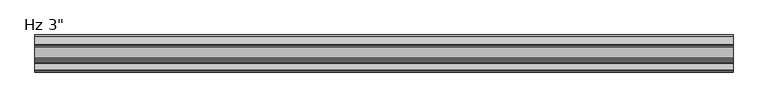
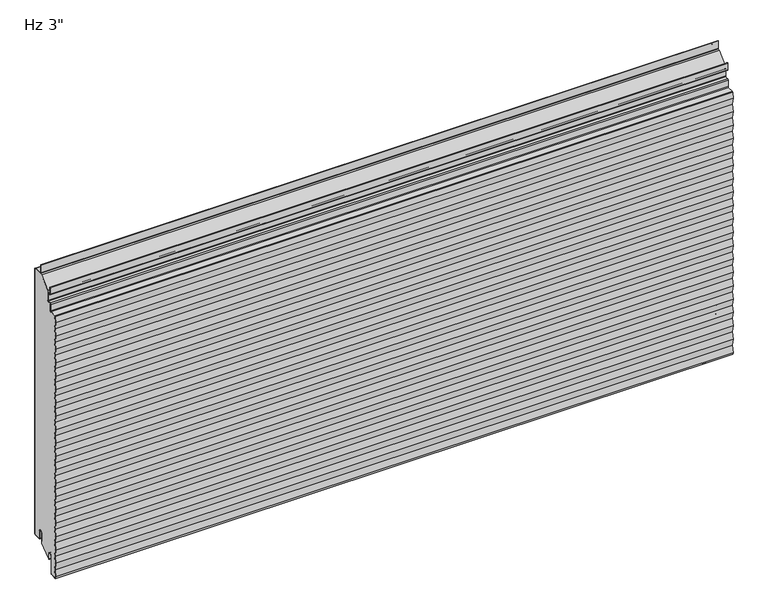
"""IFC4 building model written with IfcOpenShell, lengths in millimetres: plate geometry."""

from ifc_helpers import new_model, si_unit, point, frame, frame_2d, origin, place, context, project, spatial, polyline, circle_curve, ellipse_curve, trimmed, segment, composite_curve, outline, extrude, source, transform, mapped, element, save
from ifc_brep_helpers import plane_surface, cylinder_surface, revolved_surface, extruded_surface, advanced_brep


def plate_971f1716(model_context):
    return source(origin(), model_context, "Body", "SolidModel", [
        extrude(outline(composite_curve([segment(trimmed(circle_curve(frame_2d((-21.43125, 19.05)), 4.96875), [point((-16.4625, 19.05))], [point((-26.4, 19.05))], True, "CARTESIAN"), True, "CONTINUOUS"), segment(polyline([(-26.4, 19.05), (-26.4, -3.1323422), (-49.2157227, -23.01875), (-50.8, -23.01875), (-50.8, -13.5080174), (-51.59375, -13.5080174), (-51.3875, -11.9205174)]), True, "CONTINUOUS"), segment(trimmed(circle_curve(frame_2d((-56.35625, -11.9205174)), 4.96875), [point((-51.3875, -11.9205174))], [point((-61.325, -11.9205174))], True, "CARTESIAN"), True, "CONTINUOUS"), segment(polyline([(-61.325, -11.9205174), (-61.325, -50.1038221)]), True, "CONTINUOUS"), segment(trimmed(circle_curve(frame_2d((-62.70625, -50.1038221)), 1.38125), [point((-61.325, -50.1038221))], [point((-62.633961, -51.4831791))], False, "CARTESIAN"), True, "CONTINUOUS"), segment(polyline([(-62.633961, -51.4831791), (-75.8062471, -52.1735094), (-76.3378194, -48.8511825), (-73.8994194, -33.6111825), (-76.3378194, -18.3711825), (-73.8994194, -3.1311825), (-76.3378194, 12.1088175), (-73.8994194, 27.3488175), (-76.3378194, 42.5888175), (-73.8994194, 57.8288175), (-76.3378194, 73.0688175), (-73.8994194, 88.3088175), (-76.3378194, 103.5488175), (-73.8994194, 118.7888175), (-76.3378194, 134.0288175), (-73.8994194, 149.2688175), (-76.3378194, 164.5088175), (-73.8994194, 179.7488175), (-76.3378194, 194.9888175), (-73.8994194, 210.2288175), (-76.3378194, 225.4688175), (-73.8994194, 240.7088175), (-76.3378194, 255.9488175), (-73.8994194, 271.1888175), (-76.3378194, 286.4288175), (-73.8994194, 301.6688175), (-76.3378194, 316.9088175), (-73.8994194, 332.1488175), (-76.3378194, 347.3888175), (-73.8994194, 362.6288175), (-76.3378194, 377.8688175), (-73.8994194, 393.1088175), (-76.3378194, 408.3488175), (-73.8994194, 423.5888175), (-76.3378194, 438.8288175), (-73.8994194, 454.0688175), (-76.3378194, 469.3088175), (-73.8994194, 484.5488175), (-76.3378194, 499.7888175), (-73.8994194, 515.0288175), (-76.3054086, 530.06625), (-74.2673048, 542.8043985), (-60.1895807, 543.5421807)]), True, "CONTINUOUS"), segment(trimmed(circle_curve(frame_2d((-60.325, 546.1261347)), 2.5875), [point((-60.1895807, 543.5421807))], [point((-57.7375, 546.1261347))], True, "CARTESIAN"), True, "CONTINUOUS"), segment(polyline([(-57.7375, 546.1261347), (-57.7375, 560.2824411)]), True, "CONTINUOUS"), segment(trimmed(circle_curve(frame_2d((-56.35625, 560.2824411)), 1.38125), [point((-57.7375, 560.2824411))], [point((-56.428539, 561.6617981))], False, "CARTESIAN"), True, "CONTINUOUS"), segment(polyline([(-56.428539, 561.6617981), (-50.6645807, 561.9638744)]), True, "CONTINUOUS"), segment(trimmed(circle_curve(frame_2d((-50.8, 564.5478283)), 2.5875), [point((-50.6645807, 561.9638744))], [point((-48.2125, 564.5478283))], True, "CARTESIAN"), True, "CONTINUOUS"), segment(polyline([(-48.2125, 564.5478283), (-48.2125, 586.9892934), (-24.9057308, 607.80625), (-2.38125, 607.80625)]), True, "CONTINUOUS"), segment(trimmed(circle_curve(frame_2d((-2.38125, 606.425)), 1.38125), [point((-2.38125, 607.80625))], [point((-1.0, 606.425))], False, "CARTESIAN"), True, "CONTINUOUS"), segment(polyline([(-1.0, 606.425), (-1.0, 3.175)]), True, "CONTINUOUS"), segment(trimmed(circle_curve(frame_2d((-2.38125, 3.175)), 1.38125), [point((-1.0, 3.175))], [point((-2.38125, 1.79375))], False, "CARTESIAN"), True, "CONTINUOUS"), segment(polyline([(-2.38125, 1.79375), (-15.08125, 1.79375)]), True, "CONTINUOUS"), segment(trimmed(circle_curve(frame_2d((-15.08125, 3.175)), 1.38125), [point((-15.08125, 1.79375))], [point((-16.4625, 3.175))], False, "CARTESIAN"), True, "CONTINUOUS"), segment(polyline([(-16.4625, 3.175), (-16.4625, 19.05)]), True, "CONTINUOUS")], self_intersect=False)), frame((-730.0, 0.0, 0.0), z_axis=(1.0, 0.0, 0.0), x_axis=(0.0, 1.0, 0.0)), (0.0, 0.0, 1.0), 1460.0),
        extrude(outline(composite_curve([segment(polyline([(-25.4, 0.79375), (-26.4, 0.79375), (-26.4, 19.05)]), True, "CONTINUOUS"), segment(trimmed(circle_curve(frame_2d((-21.43125, 19.05)), 4.96875), [point((-26.4, 19.05))], [point((-16.4625, 19.05))], False, "CARTESIAN"), True, "CONTINUOUS"), segment(polyline([(-16.4625, 19.05), (-16.4625, 3.175)]), True, "CONTINUOUS"), segment(trimmed(circle_curve(frame_2d((-15.08125, 3.175)), 1.38125), [point((-16.4625, 3.175))], [point((-15.08125, 1.79375))], True, "CARTESIAN"), True, "CONTINUOUS"), segment(polyline([(-15.08125, 1.79375), (-2.38125, 1.79375)]), True, "CONTINUOUS"), segment(trimmed(circle_curve(frame_2d((-2.38125, 3.175)), 1.38125), [point((-2.38125, 1.79375))], [point((-1.0, 3.175))], True, "CARTESIAN"), True, "CONTINUOUS"), segment(polyline([(-1.0, 3.175), (-1.0, 606.425)]), True, "CONTINUOUS"), segment(trimmed(circle_curve(frame_2d((-2.38125, 606.425)), 1.38125), [point((-1.0, 606.425))], [point((-2.38125, 607.80625))], True, "CARTESIAN"), True, "CONTINUOUS"), segment(polyline([(-2.38125, 607.80625), (-19.446875, 607.80625)]), True, "CONTINUOUS"), segment(trimmed(circle_curve(frame_2d((-19.446875, 610.39375)), 2.5875), [point((-19.446875, 607.80625))], [point((-22.034375, 610.39375))], False, "CARTESIAN"), True, "CONTINUOUS"), segment(polyline([(-22.034375, 610.39375), (-22.034375, 627.85625), (-21.034375, 627.85625), (-21.034375, 610.39375)]), True, "CONTINUOUS"), segment(trimmed(circle_curve(frame_2d((-19.446875, 610.39375)), 1.5875), [point((-21.034375, 610.39375))], [point((-19.446875, 608.80625))], True, "CARTESIAN"), True, "CONTINUOUS"), segment(polyline([(-19.446875, 608.80625), (-2.38125, 608.80625)]), True, "CONTINUOUS"), segment(trimmed(circle_curve(frame_2d((-2.38125, 606.425)), 2.38125), [point((-2.38125, 608.80625))], [point((0.0, 606.425))], False, "CARTESIAN"), True, "CONTINUOUS"), segment(polyline([(0.0, 606.425), (0.0, 3.175)]), True, "CONTINUOUS"), segment(trimmed(circle_curve(frame_2d((-2.38125, 3.175)), 2.38125), [point((0.0, 3.175))], [point((-2.38125, 0.79375))], False, "CARTESIAN"), True, "CONTINUOUS"), segment(polyline([(-2.38125, 0.79375), (-15.08125, 0.79375)]), True, "CONTINUOUS"), segment(trimmed(circle_curve(frame_2d((-15.08125, 3.175)), 2.38125), [point((-15.08125, 0.79375))], [point((-17.4625, 3.175))], False, "CARTESIAN"), True, "CONTINUOUS"), segment(polyline([(-17.4625, 3.175), (-17.4625, 19.05)]), True, "CONTINUOUS"), segment(trimmed(circle_curve(frame_2d((-21.43125, 19.05)), 3.96875), [point((-17.4625, 19.05))], [point((-25.4, 19.05))], True, "CARTESIAN"), True, "CONTINUOUS"), segment(polyline([(-25.4, 19.05), (-25.4, 0.79375)]), True, "CONTINUOUS")], self_intersect=False)), frame((-730.0, 0.0, 0.0), z_axis=(1.0, 0.0, 0.0), x_axis=(0.0, 1.0, 0.0)), (0.0, 0.0, 1.0), 1460.0),
        advanced_brep(
        [(-730.0, -73.9998204, 271.1690814), (730.0, -73.9998204, 271.1690814), (730.0, -76.4382204, 255.9290814), (-730.0, -76.4382204, 255.9290814), (-730.0, -73.943375, 543.8227473), (730.0, -73.943375, 543.8227473), (730.0, -60.2419167, 544.5408103), (-730.0, -60.2419167, 544.5408103), (-730.0, -75.0125395, 515.0090814), (730.0, -75.0125395, 515.0090814), (730.0, -77.4185287, 530.0465139), (-730.0, -77.4185287, 530.0465139), (-730.0, -73.9998204, 515.0090814), (730.0, -73.9998204, 515.0090814), (730.0, -76.4382204, 499.7690814), (-730.0, -76.4382204, 499.7690814), (730.0, -73.9998204, 484.5290814), (-730.0, -73.9998204, 484.5290814), (730.0, -76.4382204, 469.2890814), (-730.0, -76.4382204, 469.2890814), (730.0, -73.9998204, 454.0490814), (-730.0, -73.9998204, 454.0490814), (730.0, -76.4382204, 438.8090814), (-730.0, -76.4382204, 438.8090814), (730.0, -73.9998204, 423.5690814), (-730.0, -73.9998204, 423.5690814), (730.0, -76.4382204, 408.3290814), (-730.0, -76.4382204, 408.3290814), (730.0, -73.9998204, 393.0890814), (-730.0, -73.9998204, 393.0890814), (730.0, -76.4382204, 377.8490814), (-730.0, -76.4382204, 377.8490814), (730.0, -73.9998204, 362.6090814), (-730.0, -73.9998204, 362.6090814), (730.0, -76.4382204, 347.3690814), (-730.0, -76.4382204, 347.3690814), (730.0, -73.9998204, 332.1290814), (-730.0, -73.9998204, 332.1290814), (730.0, -76.4382204, 316.8890814), (-730.0, -76.4382204, 316.8890814), (-730.0, -77.4509395, 438.8090814), (730.0, -77.4509395, 438.8090814), (730.0, -75.0125395, 454.0490814), (-730.0, -75.0125395, 454.0490814), (730.0, -77.4509395, 469.2890814), (-730.0, -77.4509395, 469.2890814), (730.0, -75.0125395, 484.5290814), (-730.0, -75.0125395, 484.5290814), (730.0, -77.4509395, 499.7690814), (-730.0, -77.4509395, 499.7690814), (-730.0, -73.891039, 542.8241177), (730.0, -73.891039, 542.8241177), (730.0, -74.440413, 542.3302423), (-730.0, -74.440413, 542.3302423), (730.0, -76.4058096, 530.0465139), (-730.0, -76.4058096, 530.0465139), (-730.0, -75.0125395, 362.6090814), (730.0, -75.0125395, 362.6090814), (730.0, -77.4509395, 377.8490814), (-730.0, -77.4509395, 377.8490814), (-730.0, -77.4509395, 408.3290814), (730.0, -77.4509395, 408.3290814), (730.0, -75.0125395, 423.5690814), (-730.0, -75.0125395, 423.5690814), (-730.0, -75.0125395, 301.6490814), (730.0, -75.0125395, 301.6490814), (730.0, -77.4509395, 316.8890814), (-730.0, -77.4509395, 316.8890814), (-730.0, -77.4509395, 347.3690814), (730.0, -77.4509395, 347.3690814), (-730.0, -75.0125395, 240.6890814), (730.0, -75.0125395, 240.6890814), (730.0, -77.4509395, 255.9290814), (-730.0, -77.4509395, 255.9290814), (-730.0, -77.4509395, 286.4090814), (730.0, -77.4509395, 286.4090814), (-730.0, -75.0125395, 179.7290814), (730.0, -75.0125395, 179.7290814), (730.0, -77.4509395, 194.9690814), (-730.0, -77.4509395, 194.9690814), (-730.0, -77.4509395, 225.4490814), (730.0, -77.4509395, 225.4490814), (-730.0, -75.0125395, 118.7690814), (730.0, -75.0125395, 118.7690814), (730.0, -77.4509395, 134.0090814), (-730.0, -77.4509395, 134.0090814), (-730.0, -77.4509395, 164.4890814), (730.0, -77.4509395, 164.4890814), (-730.0, -75.0125395, 57.8090814), (730.0, -75.0125395, 57.8090814), (730.0, -77.4509395, 73.0490814), (-730.0, -77.4509395, 73.0490814), (-730.0, -77.4509395, 103.5290814), (730.0, -77.4509395, 103.5290814), (-730.0, -75.0125395, -3.1509186), (730.0, -75.0125395, -3.1509186), (730.0, -77.4509395, 12.0890814), (-730.0, -77.4509395, 12.0890814), (-730.0, -77.4509395, 42.5690814), (730.0, -77.4509395, 42.5690814), (-730.0, -50.8, -23.2314549), (-730.0, -52.3875, -23.2314549), (-730.0, -52.3875, -11.9205174), (-730.0, -60.325, -11.9205174), (-730.0, -60.325, -50.1038221), (-730.0, -62.581625, -52.4818086), (-730.0, -76.7543553, -53.22457), (-730.0, -77.4509395, -48.8709186), (-730.0, -75.0125395, -33.6309186), (-730.0, -77.4509395, -18.3909186), (-730.0, -75.0125395, 27.3290814), (-730.0, -75.0125395, 88.2890814), (-730.0, -75.0125395, 149.2490814), (-730.0, -75.0125395, 210.2090814), (-730.0, -75.0125395, 271.1690814), (-730.0, -75.0125395, 332.1290814), (-730.0, -75.0125395, 393.0890814), (-730.0, -75.4278537, 542.4882328), (-730.0, -58.7375, 546.1261347), (-730.0, -58.7375, 560.2824411), (-730.0, -56.480875, 562.6604276), (-730.0, -50.7169167, 562.9625039), (-730.0, -49.2125, 564.5478283), (-730.0, -49.2125, 579.4232326), (-730.0, -50.8, 581.0107326), (-730.0, -54.9671875, 581.0107326), (-730.0, -57.3484375, 583.3919826), (-730.0, -57.3484375, 597.8836032), (-730.0, -55.5546875, 597.8836032), (-730.0, -55.5546875, 588.1544826), (-730.0, -56.3484375, 588.1544826), (-730.0, -56.3484375, 583.3919826), (-730.0, -54.9671875, 582.0107326), (-730.0, -50.8, 582.0107326), (-730.0, -48.2125, 579.4232326), (-730.0, -48.2125, 564.5478283), (-730.0, -50.6645807, 561.9638744), (-730.0, -56.428539, 561.6617981), (-730.0, -57.7375, 560.2824411), (-730.0, -57.7375, 546.1261347), (-730.0, -60.1895807, 543.5421807), (-730.0, -73.9998204, 301.6490814), (-730.0, -76.4382204, 286.4090814), (-730.0, -73.9998204, 240.6890814), (-730.0, -76.4382204, 225.4490814), (-730.0, -73.9998204, 210.2090814), (-730.0, -76.4382204, 194.9690814), (-730.0, -73.9998204, 179.7290814), (-730.0, -76.4382204, 164.4890814), (-730.0, -73.9998204, 149.2490814), (-730.0, -76.4382204, 134.0090814), (-730.0, -73.9998204, 118.7690814), (-730.0, -76.4382204, 103.5290814), (-730.0, -73.9998204, 88.2890814), (-730.0, -76.4382204, 73.0490814), (-730.0, -73.9998204, 57.8090814), (-730.0, -76.4382204, 42.5690814), (-730.0, -73.9998204, 27.3290814), (-730.0, -76.4382204, 12.0890814), (-730.0, -73.9998204, -3.1509186), (-730.0, -76.4382204, -18.3909186), (-730.0, -73.9998204, -33.6309186), (-730.0, -76.4382204, -48.8709186), (-730.0, -75.9089447, -52.1788915), (-730.0, -62.633961, -51.4831791), (-730.0, -61.325, -50.1038221), (-730.0, -61.325, -11.9205174), (-730.0, -51.3875, -11.9205174), (-730.0, -51.59375, -13.5080174), (-730.0, -50.8, -13.5080174), (730.0, -50.8, -23.2314549), (730.0, -50.8, -13.5080174), (730.0, -51.59375, -13.5080174), (730.0, -51.3875, -11.9205174), (730.0, -61.325, -11.9205174), (730.0, -61.325, -50.1038221), (730.0, -62.633961, -51.4831791), (730.0, -75.9089447, -52.1788915), (730.0, -76.4382204, -48.8709186), (730.0, -73.9998204, -33.6309186), (730.0, -76.4382204, -18.3909186), (730.0, -73.9998204, -3.1509186), (730.0, -76.4382204, 12.0890814), (730.0, -73.9998204, 27.3290814), (730.0, -76.4382204, 42.5690814), (730.0, -73.9998204, 57.8090814), (730.0, -76.4382204, 73.0490814), (730.0, -73.9998204, 88.2890814), (730.0, -76.4382204, 103.5290814), (730.0, -73.9998204, 118.7690814), (730.0, -76.4382204, 134.0090814), (730.0, -73.9998204, 149.2490814), (730.0, -76.4382204, 164.4890814), (730.0, -73.9998204, 179.7290814), (730.0, -76.4382204, 194.9690814), (730.0, -73.9998204, 210.2090814), (730.0, -76.4382204, 225.4490814), (730.0, -73.9998204, 240.6890814), (730.0, -76.4382204, 286.4090814), (730.0, -73.9998204, 301.6490814), (730.0, -60.1895807, 543.5421807), (730.0, -57.7375, 546.1261347), (730.0, -57.7375, 560.2824411), (730.0, -56.428539, 561.6617981), (730.0, -50.6645807, 561.9638744), (730.0, -48.2125, 564.5478283), (730.0, -48.2125, 579.4232326), (730.0, -50.8, 582.0107326), (730.0, -54.9671875, 582.0107326), (730.0, -56.3484375, 583.3919826), (730.0, -56.3484375, 588.1544826), (730.0, -55.5546875, 588.1544826), (730.0, -55.5546875, 597.8836032), (730.0, -57.3484375, 597.8836032), (730.0, -57.3484375, 583.3919826), (730.0, -54.9671875, 581.0107326), (730.0, -50.8, 581.0107326), (730.0, -49.2125, 579.4232326), (730.0, -49.2125, 564.5478283), (730.0, -50.7169167, 562.9625039), (730.0, -56.480875, 562.6604276), (730.0, -58.7375, 560.2824411), (730.0, -58.7375, 546.1261347), (730.0, -75.4278537, 542.4882328), (730.0, -75.0125395, 393.0890814), (730.0, -75.0125395, 332.1290814), (730.0, -75.0125395, 271.1690814), (730.0, -75.0125395, 210.2090814), (730.0, -75.0125395, 149.2490814), (730.0, -75.0125395, 88.2890814), (730.0, -75.0125395, 27.3290814), (730.0, -77.4509395, -18.3909186), (730.0, -75.0125395, -33.6309186), (730.0, -77.4509395, -48.8709186), (730.0, -76.7543553, -53.22457), (730.0, -62.581625, -52.4818086), (730.0, -60.325, -50.1038221), (730.0, -60.325, -11.9205174), (730.0, -52.3875, -11.9205174), (730.0, -52.3875, -23.2314549)],
        [
            (0, 1),
            (1, 2),
            (2, 3),
            (3, 0),
            (4, 5),
            (5, 6),
            (6, 7),
            (7, 4),
            (8, 9),
            (9, 10),
            (10, 11),
            (11, 8),
            (12, 13),
            (13, 14),
            (14, 15),
            (15, 12),
            (14, 16),
            (16, 17),
            (17, 15),
            (16, 18),
            (18, 19),
            (19, 17),
            (18, 20),
            (20, 21),
            (21, 19),
            (20, 22),
            (22, 23),
            (23, 21),
            (22, 24),
            (24, 25),
            (25, 23),
            (24, 26),
            (26, 27),
            (27, 25),
            (26, 28),
            (28, 29),
            (29, 27),
            (28, 30),
            (30, 31),
            (31, 29),
            (30, 32),
            (32, 33),
            (33, 31),
            (32, 34),
            (34, 35),
            (35, 33),
            (34, 36),
            (36, 37),
            (37, 35),
            (36, 38),
            (38, 39),
            (39, 37),
            (40, 41),
            (41, 42),
            (42, 43),
            (43, 40),
            (42, 44),
            (44, 45),
            (45, 43),
            (44, 46),
            (46, 47),
            (47, 45),
            (46, 48),
            (48, 49),
            (49, 47),
            (48, 9),
            (8, 49),
            (50, 51),
            (51, 52, circle_curve(frame((730.0, -73.8602917, 542.2374229), z_axis=(1.0, 0.0, 0.0), x_axis=(0.0, 0.0, 1.0)), 0.5875)),
            (52, 53),
            (53, 50, circle_curve(frame((-730.0, -73.8602917, 542.2374229), z_axis=(-1.0, 0.0, 0.0), x_axis=(0.0, 0.0, 1.0)), 0.5875)),
            (52, 54),
            (54, 55),
            (55, 53),
            (56, 57),
            (57, 58),
            (58, 59),
            (59, 56),
            (60, 61),
            (61, 62),
            (62, 63),
            (63, 60),
            (64, 65),
            (65, 66),
            (66, 67),
            (67, 64),
            (68, 69),
            (69, 57),
            (56, 68),
            (70, 71),
            (71, 72),
            (72, 73),
            (73, 70),
            (74, 75),
            (75, 65),
            (64, 74),
            (76, 77),
            (77, 78),
            (78, 79),
            (79, 76),
            (80, 81),
            (81, 71),
            (70, 80),
            (82, 83),
            (83, 84),
            (84, 85),
            (85, 82),
            (86, 87),
            (87, 77),
            (76, 86),
            (88, 89),
            (89, 90),
            (90, 91),
            (91, 88),
            (92, 93),
            (93, 83),
            (82, 92),
            (94, 95),
            (95, 96),
            (96, 97),
            (97, 94),
            (98, 99),
            (99, 89),
            (88, 98),
            (100, 101, circle_curve(frame((-730.0, -51.59375, -23.2314549), z_axis=(-1.0, 0.0, 0.0), x_axis=(0.0, 0.0, 1.0)), 0.79375)),
            (101, 102),
            (102, 103, circle_curve(frame((-730.0, -56.35625, -11.9205174), z_axis=(1.0, 0.0, 0.0), x_axis=(0.0, 0.0, 1.0)), 3.96875)),
            (103, 104),
            (104, 105, circle_curve(frame((-730.0, -62.70625, -50.1038221), z_axis=(-1.0, 0.0, 0.0), x_axis=(0.0, 0.0, 1.0)), 2.38125)),
            (105, 106),
            (106, 107),
            (107, 108),
            (108, 109),
            (109, 94),
            (97, 110),
            (110, 98),
            (91, 111),
            (111, 92),
            (85, 112),
            (112, 86),
            (79, 113),
            (113, 80),
            (73, 114),
            (114, 74),
            (67, 115),
            (115, 68),
            (59, 116),
            (116, 60),
            (63, 40),
            (11, 117),
            (117, 4, circle_curve(frame((-730.0, -73.8602917, 542.2374229), z_axis=(-1.0, 0.0, 0.0), x_axis=(0.0, 0.0, 1.0)), 1.5875)),
            (7, 118, circle_curve(frame((-730.0, -60.325, 546.1261347), z_axis=(1.0, 0.0, 0.0), x_axis=(0.0, 0.0, 1.0)), 1.5875)),
            (118, 119),
            (119, 120, circle_curve(frame((-730.0, -56.35625, 560.2824411), z_axis=(-1.0, 0.0, 0.0), x_axis=(0.0, 0.0, 1.0)), 2.38125)),
            (120, 121),
            (121, 122, circle_curve(frame((-730.0, -50.8, 564.5478283), z_axis=(1.0, 0.0, 0.0), x_axis=(0.0, 0.0, 1.0)), 1.5875)),
            (122, 123),
            (123, 124, circle_curve(frame((-730.0, -50.8, 579.4232326), z_axis=(1.0, 0.0, 0.0), x_axis=(0.0, 0.0, 1.0)), 1.5875)),
            (124, 125),
            (125, 126, circle_curve(frame((-730.0, -54.9671875, 583.3919826), z_axis=(-1.0, 0.0, 0.0), x_axis=(0.0, 0.0, 1.0)), 2.38125)),
            (126, 127),
            (127, 128, ellipse_curve(frame((-730.0, -56.4515625, 597.8836032), z_axis=(-1.0, 0.0, 0.0), x_axis=(0.0, 1.0, 0.0)), 0.896875, 0.7852275)),
            (128, 129),
            (129, 130),
            (130, 131),
            (131, 132, circle_curve(frame((-730.0, -54.9671875, 583.3919826), z_axis=(1.0, 0.0, 0.0), x_axis=(0.0, 0.0, 1.0)), 1.38125)),
            (132, 133),
            (133, 134, circle_curve(frame((-730.0, -50.8, 579.4232326), z_axis=(-1.0, 0.0, 0.0), x_axis=(0.0, 0.0, 1.0)), 2.5875)),
            (134, 135),
            (135, 136, circle_curve(frame((-730.0, -50.8, 564.5478283), z_axis=(-1.0, 0.0, 0.0), x_axis=(0.0, 0.0, 1.0)), 2.5875)),
            (136, 137),
            (137, 138, circle_curve(frame((-730.0, -56.35625, 560.2824411), z_axis=(1.0, 0.0, 0.0), x_axis=(0.0, 0.0, 1.0)), 1.38125)),
            (138, 139),
            (139, 140, circle_curve(frame((-730.0, -60.325, 546.1261347), z_axis=(-1.0, 0.0, 0.0), x_axis=(0.0, 0.0, 1.0)), 2.5875)),
            (140, 50),
            (55, 12),
            (39, 141),
            (141, 142),
            (142, 0),
            (3, 143),
            (143, 144),
            (144, 145),
            (145, 146),
            (146, 147),
            (147, 148),
            (148, 149),
            (149, 150),
            (150, 151),
            (151, 152),
            (152, 153),
            (153, 154),
            (154, 155),
            (155, 156),
            (156, 157),
            (157, 158),
            (158, 159),
            (159, 160),
            (160, 161),
            (161, 162),
            (162, 163),
            (163, 164),
            (164, 165, circle_curve(frame((-730.0, -62.70625, -50.1038221), z_axis=(1.0, 0.0, 0.0), x_axis=(0.0, 0.0, 1.0)), 1.38125)),
            (165, 166),
            (166, 167, circle_curve(frame((-730.0, -56.35625, -11.9205174), z_axis=(-1.0, 0.0, 0.0), x_axis=(0.0, 0.0, 1.0)), 4.96875)),
            (167, 168),
            (168, 169),
            (169, 100),
            (170, 171),
            (171, 172),
            (172, 173),
            (173, 174, circle_curve(frame((730.0, -56.35625, -11.9205174), z_axis=(1.0, 0.0, 0.0), x_axis=(0.0, 0.0, 1.0)), 4.96875)),
            (174, 175),
            (175, 176, circle_curve(frame((730.0, -62.70625, -50.1038221), z_axis=(-1.0, 0.0, 0.0), x_axis=(0.0, 0.0, 1.0)), 1.38125)),
            (176, 177),
            (177, 178),
            (178, 179),
            (179, 180),
            (180, 181),
            (181, 182),
            (182, 183),
            (183, 184),
            (184, 185),
            (185, 186),
            (186, 187),
            (187, 188),
            (188, 189),
            (189, 190),
            (190, 191),
            (191, 192),
            (192, 193),
            (193, 194),
            (194, 195),
            (195, 196),
            (196, 197),
            (197, 2),
            (1, 198),
            (198, 199),
            (199, 38),
            (13, 54),
            (51, 200),
            (200, 201, circle_curve(frame((730.0, -60.325, 546.1261347), z_axis=(1.0, 0.0, 0.0), x_axis=(0.0, 0.0, 1.0)), 2.5875)),
            (201, 202),
            (202, 203, circle_curve(frame((730.0, -56.35625, 560.2824411), z_axis=(-1.0, 0.0, 0.0), x_axis=(0.0, 0.0, 1.0)), 1.38125)),
            (203, 204),
            (204, 205, circle_curve(frame((730.0, -50.8, 564.5478283), z_axis=(1.0, 0.0, 0.0), x_axis=(0.0, 0.0, 1.0)), 2.5875)),
            (205, 206),
            (206, 207, circle_curve(frame((730.0, -50.8, 579.4232326), z_axis=(1.0, 0.0, 0.0), x_axis=(0.0, 0.0, 1.0)), 2.5875)),
            (207, 208),
            (208, 209, circle_curve(frame((730.0, -54.9671875, 583.3919826), z_axis=(-1.0, 0.0, 0.0), x_axis=(0.0, 0.0, 1.0)), 1.38125)),
            (209, 210),
            (210, 211),
            (211, 212),
            (212, 213, ellipse_curve(frame((730.0, -56.4515625, 597.8836032), z_axis=(1.0, 0.0, 0.0), x_axis=(0.0, 1.0, 0.0)), 0.896875, 0.7852275)),
            (213, 214),
            (214, 215, circle_curve(frame((730.0, -54.9671875, 583.3919826), z_axis=(1.0, 0.0, 0.0), x_axis=(0.0, 0.0, 1.0)), 2.38125)),
            (215, 216),
            (216, 217, circle_curve(frame((730.0, -50.8, 579.4232326), z_axis=(-1.0, 0.0, 0.0), x_axis=(0.0, 0.0, 1.0)), 1.5875)),
            (217, 218),
            (218, 219, circle_curve(frame((730.0, -50.8, 564.5478283), z_axis=(-1.0, 0.0, 0.0), x_axis=(0.0, 0.0, 1.0)), 1.5875)),
            (219, 220),
            (220, 221, circle_curve(frame((730.0, -56.35625, 560.2824411), z_axis=(1.0, 0.0, 0.0), x_axis=(0.0, 0.0, 1.0)), 2.38125)),
            (221, 222),
            (222, 6, circle_curve(frame((730.0, -60.325, 546.1261347), z_axis=(-1.0, 0.0, 0.0), x_axis=(0.0, 0.0, 1.0)), 1.5875)),
            (5, 223, circle_curve(frame((730.0, -73.8602917, 542.2374229), z_axis=(1.0, 0.0, 0.0), x_axis=(0.0, 0.0, 1.0)), 1.5875)),
            (223, 10),
            (41, 62),
            (61, 224),
            (224, 58),
            (69, 225),
            (225, 66),
            (75, 226),
            (226, 72),
            (81, 227),
            (227, 78),
            (87, 228),
            (228, 84),
            (93, 229),
            (229, 90),
            (99, 230),
            (230, 96),
            (95, 231),
            (231, 232),
            (232, 233),
            (233, 234),
            (234, 235),
            (235, 236, circle_curve(frame((730.0, -62.70625, -50.1038221), z_axis=(1.0, 0.0, 0.0), x_axis=(0.0, 0.0, 1.0)), 2.38125)),
            (236, 237),
            (237, 238, circle_curve(frame((730.0, -56.35625, -11.9205174), z_axis=(-1.0, 0.0, 0.0), x_axis=(0.0, 0.0, 1.0)), 3.96875)),
            (238, 239),
            (239, 170, circle_curve(frame((730.0, -51.59375, -23.2314549), z_axis=(1.0, 0.0, 0.0), x_axis=(0.0, 0.0, 1.0)), 0.79375)),
            (169, 171),
            (170, 100),
            (163, 177),
            (176, 164),
            (175, 165),
            (174, 166),
            (173, 167),
            (168, 172),
            (129, 211),
            (210, 130),
            (128, 212),
            (127, 213),
            (139, 201),
            (200, 140),
            (137, 203),
            (202, 138),
            (135, 205),
            (204, 136),
            (131, 209),
            (208, 132),
            (133, 207),
            (206, 134),
            (126, 214),
            (124, 216),
            (215, 125),
            (122, 218),
            (217, 123),
            (120, 220),
            (219, 121),
            (118, 222),
            (221, 119),
            (105, 235),
            (234, 106),
            (103, 237),
            (236, 104),
            (101, 239),
            (238, 102),
            (199, 141),
            (198, 142),
            (197, 143),
            (196, 144),
            (195, 145),
            (194, 146),
            (193, 147),
            (192, 148),
            (191, 149),
            (190, 150),
            (189, 151),
            (223, 117),
            (116, 224),
            (115, 225),
            (114, 226),
            (113, 227),
            (112, 228),
            (111, 229),
            (110, 230),
            (108, 232),
            (231, 109),
            (233, 107),
            (161, 179),
            (178, 162),
            (159, 181),
            (180, 160),
            (157, 183),
            (182, 158),
            (155, 185),
            (184, 156),
            (153, 187),
            (186, 154),
            (188, 152),
        ],
        [
            plane_surface(frame((-730.0, -76.4382204, 255.9290814), z_axis=(0.0, 0.987440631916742, -0.15799050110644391), x_axis=(1.0, 0.0, 0.0))),
            plane_surface(frame((-730.0, -60.2419167, 544.5408103), z_axis=(0.0, -0.052335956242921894, 0.998629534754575), x_axis=(1.0, 0.0, 0.0))),
            plane_surface(frame((-730.0, -77.4185287, 530.0465139), z_axis=(0.0, -0.9874406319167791, -0.15799050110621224), x_axis=(1.0, 0.0, 0.0))),
            plane_surface(frame((-730.0, -76.4382204, 499.7690814), z_axis=(0.0, 0.9874406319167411, -0.15799050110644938), x_axis=(1.0, 0.0, 0.0))),
            plane_surface(frame((-730.0, -73.9998204, 484.5290814), z_axis=(0.0, 0.987440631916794, 0.1579905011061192), x_axis=(1.0, 0.0, 0.0))),
            plane_surface(frame((-730.0, -76.4382204, 469.2890814), z_axis=(0.0, 0.987440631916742, -0.15799050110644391), x_axis=(1.0, 0.0, 0.0))),
            plane_surface(frame((-730.0, -73.9998204, 454.0490814), z_axis=(0.0, 0.987440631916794, 0.1579905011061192), x_axis=(1.0, 0.0, 0.0))),
            plane_surface(frame((-730.0, -76.4382204, 438.8090814), z_axis=(0.0, 0.987440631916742, -0.15799050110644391), x_axis=(1.0, 0.0, 0.0))),
            plane_surface(frame((-730.0, -73.9998204, 423.5690814), z_axis=(0.0, 0.987440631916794, 0.1579905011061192), x_axis=(1.0, 0.0, 0.0))),
            plane_surface(frame((-730.0, -76.4382204, 408.3290814), z_axis=(0.0, 0.987440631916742, -0.15799050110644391), x_axis=(1.0, 0.0, 0.0))),
            plane_surface(frame((-730.0, -73.9998204, 393.0890814), z_axis=(0.0, 0.9874406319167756, 0.15799050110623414), x_axis=(1.0, 0.0, 0.0))),
            plane_surface(frame((-730.0, -76.4382204, 377.8490814), z_axis=(0.0, 0.9874406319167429, -0.15799050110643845), x_axis=(1.0, 0.0, 0.0))),
            plane_surface(frame((-730.0, -73.9998204, 362.6090814), z_axis=(0.0, 0.9874406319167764, 0.15799050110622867), x_axis=(1.0, 0.0, 0.0))),
            plane_surface(frame((-730.0, -76.4382204, 347.3690814), z_axis=(0.0, 0.9874406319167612, -0.1579905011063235), x_axis=(1.0, 0.0, 0.0))),
            plane_surface(frame((-730.0, -73.9998204, 332.1290814), z_axis=(0.0, 0.9874406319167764, 0.15799050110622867), x_axis=(1.0, 0.0, 0.0))),
            plane_surface(frame((-730.0, -76.4382204, 316.8890814), z_axis=(0.0, 0.987440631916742, -0.15799050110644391), x_axis=(1.0, 0.0, 0.0))),
            plane_surface(frame((-730.0, -75.0125395, 454.0490814), z_axis=(0.0, -0.9874406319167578, 0.15799050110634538), x_axis=(1.0, 0.0, 0.0))),
            plane_surface(frame((-730.0, -77.4509395, 469.2890814), z_axis=(0.0, -0.9874406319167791, -0.15799050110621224), x_axis=(1.0, 0.0, 0.0))),
            plane_surface(frame((-730.0, -75.0125395, 484.5290814), z_axis=(0.0, -0.9874406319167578, 0.15799050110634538), x_axis=(1.0, 0.0, 0.0))),
            plane_surface(frame((-730.0, -77.4509395, 499.7690814), z_axis=(0.0, -0.9874406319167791, -0.15799050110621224), x_axis=(1.0, 0.0, 0.0))),
            plane_surface(frame((-730.0, -75.0125395, 515.0090814), z_axis=(0.0, -0.9874406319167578, 0.15799050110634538), x_axis=(1.0, 0.0, 0.0))),
            revolved_surface(polyline([(730.0, -73.8602917, 542.8249228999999), (-730.0, -73.8602917, 542.8249228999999)]), (-730.0, -73.8602917, 542.2374229), (1.0, 0.0, 0.0)),
            plane_surface(frame((-730.0, -76.4058096, 530.0465139), z_axis=(0.0, 0.9874406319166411, -0.15799050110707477), x_axis=(1.0, 0.0, 0.0))),
            plane_surface(frame((-730.0, -77.4509395, 377.8490814), z_axis=(0.0, -0.9874406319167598, -0.15799050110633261), x_axis=(1.0, 0.0, 0.0))),
            plane_surface(frame((-730.0, -75.0125395, 423.5690814), z_axis=(0.0, -0.9874406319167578, 0.15799050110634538), x_axis=(1.0, 0.0, 0.0))),
            plane_surface(frame((-730.0, -77.4509395, 316.8890814), z_axis=(0.0, -0.9874406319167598, -0.15799050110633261), x_axis=(1.0, 0.0, 0.0))),
            plane_surface(frame((-730.0, -75.0125395, 362.6090814), z_axis=(0.0, -0.9874406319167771, 0.157990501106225), x_axis=(1.0, 0.0, 0.0))),
            plane_surface(frame((-730.0, -77.4509395, 255.9290814), z_axis=(0.0, -0.9874406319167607, -0.15799050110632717), x_axis=(1.0, 0.0, 0.0))),
            plane_surface(frame((-730.0, -75.0125395, 301.6490814), z_axis=(0.0, -0.9874406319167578, 0.15799050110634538), x_axis=(1.0, 0.0, 0.0))),
            plane_surface(frame((-730.0, -77.4509395, 194.9690814), z_axis=(0.0, -0.9874406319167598, -0.15799050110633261), x_axis=(1.0, 0.0, 0.0))),
            plane_surface(frame((-730.0, -75.0125395, 240.6890814), z_axis=(0.0, -0.9874406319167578, 0.15799050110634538), x_axis=(1.0, 0.0, 0.0))),
            plane_surface(frame((-730.0, -77.4509395, 134.0090814), z_axis=(0.0, -0.9874406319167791, -0.15799050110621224), x_axis=(1.0, 0.0, 0.0))),
            plane_surface(frame((-730.0, -75.0125395, 179.7290814), z_axis=(0.0, -0.9874406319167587, 0.15799050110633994), x_axis=(1.0, 0.0, 0.0))),
            plane_surface(frame((-730.0, -77.4509395, 73.0490814), z_axis=(0.0, -0.9874406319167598, -0.15799050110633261), x_axis=(1.0, 0.0, 0.0))),
            plane_surface(frame((-730.0, -75.0125395, 118.7690814), z_axis=(0.0, -0.9874406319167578, 0.15799050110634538), x_axis=(1.0, 0.0, 0.0))),
            plane_surface(frame((-730.0, -77.4509395, 12.0890814), z_axis=(0.0, -0.9874406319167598, -0.15799050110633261), x_axis=(1.0, 0.0, 0.0))),
            plane_surface(frame((-730.0, -75.0125395, 57.8090814), z_axis=(0.0, -0.9874406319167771, 0.157990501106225), x_axis=(1.0, 0.0, 0.0))),
            plane_surface(frame((-730.0, -76.2, 304.8), z_axis=(-1.0, 0.0, 0.0), x_axis=(0.0, -1.0, 0.0))),
            plane_surface(frame((730.0, -76.2, 304.8), z_axis=(1.0, 0.0, 0.0), x_axis=(0.0, -1.0, 0.0))),
            plane_surface(frame((-730.0, -50.8, -23.2314549), z_axis=(0.0, 1.0, 0.0), x_axis=(1.0, 0.0, 0.0))),
            plane_surface(frame((-730.0, -62.633961, -51.4831791), z_axis=(0.0, -0.052335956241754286, 0.9986295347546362), x_axis=(1.0, 0.0, 0.0))),
            revolved_surface(polyline([(730.0, -62.70625, -48.7225721), (-730.0, -62.70625, -48.7225721)]), (-730.0, -62.70625, -50.1038221), (1.0, 0.0, 0.0)),
            plane_surface(frame((-730.0, -61.325, -11.9205174), z_axis=(0.0, -1.0, 0.0), x_axis=(1.0, 0.0, 0.0))),
            cylinder_surface(frame((-730.0, -56.35625, -11.9205174), z_axis=(-1.0, 0.0, 0.0), x_axis=(0.0, 0.0, 1.0)), 4.96875),
            plane_surface(frame((-730.0, -50.8, -13.5080174), z_axis=(0.0, 0.0, 1.0), x_axis=(1.0, 0.0, 0.0))),
            plane_surface(frame((-730.0, -51.59375, -13.5080174), z_axis=(0.0, 0.9916655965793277, -0.12883844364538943), x_axis=(1.0, 0.0, 0.0))),
            plane_surface(frame((-730.0, -56.3484375, 588.1544826), z_axis=(0.0, 0.0, -1.0), x_axis=(1.0, 0.0, 0.0))),
            plane_surface(frame((-730.0, -55.5546875, 588.1544826), z_axis=(0.0, 1.0, 0.0), x_axis=(1.0, 0.0, 0.0))),
            extruded_surface(trimmed(ellipse_curve(frame((-730.0, -56.4515625, 597.8836032), z_axis=(1.0, 0.0, 0.0), x_axis=(0.0, 1.0, 0.0)), 0.896875, 0.7852275), [point((-730.0, -55.5546875, 597.8836032))], [point((-730.0, -57.3484375, 597.8836032))], True, "CARTESIAN"), (1460.0, 0.0, 0.0), 1460.0),
            cylinder_surface(frame((-730.0, -60.325, 546.1261347), z_axis=(-1.0, 0.0, 0.0), x_axis=(0.0, 0.0, 1.0)), 2.5875),
            revolved_surface(polyline([(730.0, -56.35625, 561.6636911), (-730.0, -56.35625, 561.6636911)]), (-730.0, -56.35625, 560.2824411), (1.0, 0.0, 0.0)),
            cylinder_surface(frame((-730.0, -50.8, 564.5478283), z_axis=(-1.0, 0.0, 0.0), x_axis=(0.0, 0.0, 1.0)), 2.5875),
            plane_surface(frame((-730.0, -56.428539, 561.6617981), z_axis=(0.0, 0.0523359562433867, -0.9986295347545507), x_axis=(1.0, 0.0, 0.0))),
            plane_surface(frame((-730.0, -57.7375, 546.1261347), z_axis=(0.0, 1.0, 0.0), x_axis=(1.0, 0.0, 0.0))),
            revolved_surface(polyline([(730.0, -54.9671875, 584.7732326), (-730.0, -54.9671875, 584.7732326)]), (-730.0, -54.9671875, 583.3919826), (1.0, 0.0, 0.0)),
            cylinder_surface(frame((-730.0, -50.8, 579.4232326), z_axis=(-1.0, 0.0, 0.0), x_axis=(0.0, 0.0, 1.0)), 2.5875),
            plane_surface(frame((-730.0, -50.8, 582.0107326), z_axis=(0.0, 0.0, 1.0), x_axis=(1.0, 0.0, 0.0))),
            plane_surface(frame((-730.0, -56.3484375, 583.3919826), z_axis=(0.0, 1.0, 0.0), x_axis=(1.0, 0.0, 0.0))),
            plane_surface(frame((-730.0, -57.3484375, 597.8836032), z_axis=(0.0, -1.0, 0.0), x_axis=(1.0, 0.0, 0.0))),
            plane_surface(frame((-730.0, -54.9671875, 581.0107326), z_axis=(0.0, 0.0, -1.0), x_axis=(1.0, 0.0, 0.0))),
            cylinder_surface(frame((-730.0, -54.9671875, 583.3919826), z_axis=(-1.0, 0.0, 0.0), x_axis=(0.0, 0.0, 1.0)), 2.38125),
            plane_surface(frame((-730.0, -48.2125, 564.5478283), z_axis=(0.0, 1.0, 0.0), x_axis=(1.0, 0.0, 0.0))),
            plane_surface(frame((-730.0, -49.2125, 579.4232326), z_axis=(0.0, -1.0, 0.0), x_axis=(1.0, 0.0, 0.0))),
            plane_surface(frame((-730.0, -50.7169167, 562.9625039), z_axis=(0.0, -0.052335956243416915, 0.9986295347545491), x_axis=(1.0, 0.0, 0.0))),
            revolved_surface(polyline([(730.0, -50.8, 566.1353283), (-730.0, -50.8, 566.1353283)]), (-730.0, -50.8, 564.5478283), (1.0, 0.0, 0.0)),
            revolved_surface(polyline([(730.0, -50.8, 581.0107326), (-730.0, -50.8, 581.0107326)]), (-730.0, -50.8, 579.4232326), (1.0, 0.0, 0.0)),
            plane_surface(frame((-730.0, -58.7375, 560.2824411), z_axis=(0.0, -1.0, 0.0), x_axis=(1.0, 0.0, 0.0))),
            revolved_surface(polyline([(730.0, -60.325, 547.7136347), (-730.0, -60.325, 547.7136347)]), (-730.0, -60.325, 546.1261347), (1.0, 0.0, 0.0)),
            cylinder_surface(frame((-730.0, -56.35625, 560.2824411), z_axis=(-1.0, 0.0, 0.0), x_axis=(0.0, 0.0, 1.0)), 2.38125),
            plane_surface(frame((-730.0, -76.7543553, -53.22457), z_axis=(0.0, 0.052335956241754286, -0.9986295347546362), x_axis=(1.0, 0.0, 0.0))),
            plane_surface(frame((-730.0, -60.325, -50.1038221), z_axis=(0.0, 1.0, 0.0), x_axis=(1.0, 0.0, 0.0))),
            plane_surface(frame((-730.0, -52.3875, -11.9205174), z_axis=(0.0, -1.0, 0.0), x_axis=(1.0, 0.0, 0.0))),
            revolved_surface(polyline([(730.0, -56.35625, -7.9517674), (-730.0, -56.35625, -7.9517674)]), (-730.0, -56.35625, -11.9205174), (1.0, 0.0, 0.0)),
            cylinder_surface(frame((-730.0, -62.70625, -50.1038221), z_axis=(-1.0, 0.0, 0.0), x_axis=(0.0, 0.0, 1.0)), 2.38125),
            cylinder_surface(frame((-730.0, -51.59375, -23.2314549), z_axis=(-1.0, 0.0, 0.0), x_axis=(0.0, 0.0, 1.0)), 0.79375),
            plane_surface(frame((-730.0, -73.9998204, 301.6490814), z_axis=(0.0, 0.9874406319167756, 0.15799050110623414), x_axis=(1.0, 0.0, 0.0))),
            plane_surface(frame((-730.0, -76.4382204, 286.4090814), z_axis=(0.0, 0.987440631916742, -0.15799050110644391), x_axis=(1.0, 0.0, 0.0))),
            plane_surface(frame((-730.0, -73.9998204, 271.1690814), z_axis=(0.0, 0.987440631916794, 0.1579905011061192), x_axis=(1.0, 0.0, 0.0))),
            plane_surface(frame((-730.0, -73.9998204, 240.6890814), z_axis=(0.0, 0.9874406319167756, 0.15799050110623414), x_axis=(1.0, 0.0, 0.0))),
            plane_surface(frame((-730.0, -76.4382204, 225.4490814), z_axis=(0.0, 0.9874406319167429, -0.15799050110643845), x_axis=(1.0, 0.0, 0.0))),
            plane_surface(frame((-730.0, -73.9998204, 210.2090814), z_axis=(0.0, 0.9874406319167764, 0.15799050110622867), x_axis=(1.0, 0.0, 0.0))),
            plane_surface(frame((-730.0, -76.4382204, 194.9690814), z_axis=(0.0, 0.9874406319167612, -0.1579905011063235), x_axis=(1.0, 0.0, 0.0))),
            plane_surface(frame((-730.0, -73.9998204, 179.7290814), z_axis=(0.0, 0.9874406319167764, 0.15799050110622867), x_axis=(1.0, 0.0, 0.0))),
            plane_surface(frame((-730.0, -76.4382204, 164.4890814), z_axis=(0.0, 0.987440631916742, -0.15799050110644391), x_axis=(1.0, 0.0, 0.0))),
            plane_surface(frame((-730.0, -73.9998204, 149.2490814), z_axis=(0.0, 0.9874406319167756, 0.15799050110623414), x_axis=(1.0, 0.0, 0.0))),
            plane_surface(frame((-730.0, -76.4382204, 134.0090814), z_axis=(0.0, 0.987440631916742, -0.15799050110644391), x_axis=(1.0, 0.0, 0.0))),
            plane_surface(frame((-730.0, -73.9998204, 118.7690814), z_axis=(0.0, 0.987440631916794, 0.1579905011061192), x_axis=(1.0, 0.0, 0.0))),
            plane_surface(frame((-730.0, -73.891039, 542.8241177), z_axis=(0.0, 0.05233595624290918, -0.9986295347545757), x_axis=(1.0, 0.0, 0.0))),
            plane_surface(frame((-730.0, -73.9998204, 515.0090814), z_axis=(0.0, 0.9874406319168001, 0.15799050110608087), x_axis=(1.0, 0.0, 0.0))),
            plane_surface(frame((-730.0, -77.4509395, 438.8090814), z_axis=(0.0, -0.9874406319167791, -0.15799050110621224), x_axis=(1.0, 0.0, 0.0))),
            plane_surface(frame((-730.0, -75.4278537, 542.4882328), z_axis=(0.0, -0.9874406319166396, 0.15799050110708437), x_axis=(1.0, 0.0, 0.0))),
            cylinder_surface(frame((-730.0, -73.8602917, 542.2374229), z_axis=(-1.0, 0.0, 0.0), x_axis=(0.0, 0.0, 1.0)), 1.5875),
            plane_surface(frame((-730.0, -77.4509395, 408.3290814), z_axis=(0.0, -0.9874406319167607, -0.15799050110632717), x_axis=(1.0, 0.0, 0.0))),
            plane_surface(frame((-730.0, -75.0125395, 393.0890814), z_axis=(0.0, -0.9874406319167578, 0.15799050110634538), x_axis=(1.0, 0.0, 0.0))),
            plane_surface(frame((-730.0, -77.4509395, 347.3690814), z_axis=(0.0, -0.9874406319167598, -0.15799050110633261), x_axis=(1.0, 0.0, 0.0))),
            plane_surface(frame((-730.0, -75.0125395, 332.1290814), z_axis=(0.0, -0.9874406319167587, 0.15799050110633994), x_axis=(1.0, 0.0, 0.0))),
            plane_surface(frame((-730.0, -77.4509395, 286.4090814), z_axis=(0.0, -0.9874406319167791, -0.15799050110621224), x_axis=(1.0, 0.0, 0.0))),
            plane_surface(frame((-730.0, -75.0125395, 271.1690814), z_axis=(0.0, -0.9874406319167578, 0.15799050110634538), x_axis=(1.0, 0.0, 0.0))),
            plane_surface(frame((-730.0, -77.4509395, 225.4490814), z_axis=(0.0, -0.9874406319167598, -0.15799050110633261), x_axis=(1.0, 0.0, 0.0))),
            plane_surface(frame((-730.0, -75.0125395, 210.2090814), z_axis=(0.0, -0.9874406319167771, 0.157990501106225), x_axis=(1.0, 0.0, 0.0))),
            plane_surface(frame((-730.0, -77.4509395, 164.4890814), z_axis=(0.0, -0.9874406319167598, -0.15799050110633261), x_axis=(1.0, 0.0, 0.0))),
            plane_surface(frame((-730.0, -75.0125395, 149.2490814), z_axis=(0.0, -0.9874406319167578, 0.15799050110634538), x_axis=(1.0, 0.0, 0.0))),
            plane_surface(frame((-730.0, -77.4509395, 103.5290814), z_axis=(0.0, -0.9874406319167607, -0.15799050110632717), x_axis=(1.0, 0.0, 0.0))),
            plane_surface(frame((-730.0, -75.0125395, 88.2890814), z_axis=(0.0, -0.9874406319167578, 0.15799050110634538), x_axis=(1.0, 0.0, 0.0))),
            plane_surface(frame((-730.0, -77.4509395, 42.5690814), z_axis=(0.0, -0.9874406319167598, -0.15799050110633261), x_axis=(1.0, 0.0, 0.0))),
            plane_surface(frame((-730.0, -75.0125395, 27.3290814), z_axis=(0.0, -0.9874406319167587, 0.15799050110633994), x_axis=(1.0, 0.0, 0.0))),
            plane_surface(frame((-730.0, -77.4509395, -18.3909186), z_axis=(0.0, -0.9874406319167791, -0.15799050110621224), x_axis=(1.0, 0.0, 0.0))),
            plane_surface(frame((-730.0, -77.4509395, -48.8709186), z_axis=(0.0, -0.9874406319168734, -0.15799050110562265), x_axis=(1.0, 0.0, 0.0))),
            plane_surface(frame((-730.0, -75.0125395, -33.6309186), z_axis=(0.0, -0.9874406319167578, 0.15799050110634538), x_axis=(1.0, 0.0, 0.0))),
            plane_surface(frame((-730.0, -75.0125395, -3.1509186), z_axis=(0.0, -0.9874406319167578, 0.15799050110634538), x_axis=(1.0, 0.0, 0.0))),
            plane_surface(frame((-730.0, -76.4382204, -48.8709186), z_axis=(0.0, 0.9874406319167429, -0.15799050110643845), x_axis=(1.0, 0.0, 0.0))),
            plane_surface(frame((-730.0, -76.4382204, -18.3909186), z_axis=(0.0, 0.987440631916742, -0.15799050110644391), x_axis=(1.0, 0.0, 0.0))),
            plane_surface(frame((-730.0, -73.9998204, -33.6309186), z_axis=(0.0, 0.987440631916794, 0.1579905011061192), x_axis=(1.0, 0.0, 0.0))),
            plane_surface(frame((-730.0, -75.9089447, -52.1788915), z_axis=(0.0, 0.987440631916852, 0.1579905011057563), x_axis=(1.0, 0.0, 0.0))),
            plane_surface(frame((-730.0, -76.4382204, 12.0890814), z_axis=(0.0, 0.987440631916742, -0.15799050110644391), x_axis=(1.0, 0.0, 0.0))),
            plane_surface(frame((-730.0, -76.4382204, 42.5690814), z_axis=(0.0, 0.9874406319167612, -0.1579905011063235), x_axis=(1.0, 0.0, 0.0))),
            plane_surface(frame((-730.0, -73.9998204, 27.3290814), z_axis=(0.0, 0.9874406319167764, 0.15799050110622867), x_axis=(1.0, 0.0, 0.0))),
            plane_surface(frame((-730.0, -73.9998204, -3.1509186), z_axis=(0.0, 0.9874406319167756, 0.15799050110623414), x_axis=(1.0, 0.0, 0.0))),
            plane_surface(frame((-730.0, -76.4382204, 73.0490814), z_axis=(0.0, 0.9874406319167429, -0.15799050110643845), x_axis=(1.0, 0.0, 0.0))),
            plane_surface(frame((-730.0, -76.4382204, 103.5290814), z_axis=(0.0, 0.987440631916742, -0.15799050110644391), x_axis=(1.0, 0.0, 0.0))),
            plane_surface(frame((-730.0, -73.9998204, 88.2890814), z_axis=(0.0, 0.9874406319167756, 0.15799050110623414), x_axis=(1.0, 0.0, 0.0))),
            plane_surface(frame((-730.0, -73.9998204, 57.8090814), z_axis=(0.0, 0.9874406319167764, 0.15799050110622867), x_axis=(1.0, 0.0, 0.0))),
        ],
        [
            (0, [[1, 2, 3, 4]]),
            (1, [[5, 6, 7, 8]]),
            (2, [[9, 10, 11, 12]]),
            (3, [[13, 14, 15, 16]]),
            (4, [[-15, 17, 18, 19]]),
            (5, [[-18, 20, 21, 22]]),
            (6, [[-21, 23, 24, 25]]),
            (7, [[-24, 26, 27, 28]]),
            (8, [[-27, 29, 30, 31]]),
            (9, [[-30, 32, 33, 34]]),
            (10, [[-33, 35, 36, 37]]),
            (11, [[-36, 38, 39, 40]]),
            (12, [[-39, 41, 42, 43]]),
            (13, [[-42, 44, 45, 46]]),
            (14, [[-45, 47, 48, 49]]),
            (15, [[-48, 50, 51, 52]]),
            (16, [[53, 54, 55, 56]]),
            (17, [[-55, 57, 58, 59]]),
            (18, [[-58, 60, 61, 62]]),
            (19, [[-61, 63, 64, 65]]),
            (20, [[-64, 66, -9, 67]]),
            (21, [[68, 69, 70, 71]]),
            (22, [[-70, 72, 73, 74]]),
            (23, [[75, 76, 77, 78]]),
            (24, [[79, 80, 81, 82]]),
            (25, [[83, 84, 85, 86]]),
            (26, [[87, 88, -75, 89]]),
            (27, [[90, 91, 92, 93]]),
            (28, [[94, 95, -83, 96]]),
            (29, [[97, 98, 99, 100]]),
            (30, [[101, 102, -90, 103]]),
            (31, [[104, 105, 106, 107]]),
            (32, [[108, 109, -97, 110]]),
            (33, [[111, 112, 113, 114]]),
            (34, [[115, 116, -104, 117]]),
            (35, [[118, 119, 120, 121]]),
            (36, [[122, 123, -111, 124]]),
            (37, [[125, 126, 127, 128, 129, 130, 131, 132, 133, 134, -121, 135, 136, -124, -114, 137, 138, -117, -107, 139, 140, -110, -100, 141, 142, -103, -93, 143, 144, -96, -86, 145, 146, -89, -78, 147, 148, -82, 149, -56, -59, -62, -65, -67, -12, 150, 151, -8, 152, 153, 154, 155, 156, 157, 158, 159, 160, 161, 162, 163, 164, 165, 166, 167, 168, 169, 170, 171, 172, 173, 174, 175, -71, -74, 176, -16, -19, -22, -25, -28, -31, -34, -37, -40, -43, -46, -49, -52, 177, 178, 179, -4, 180, 181, 182, 183, 184, 185, 186, 187, 188, 189, 190, 191, 192, 193, 194, 195, 196, 197, 198, 199, 200, 201, 202, 203, 204, 205, 206, 207]]),
            (38, [[208, 209, 210, 211, 212, 213, 214, 215, 216, 217, 218, 219, 220, 221, 222, 223, 224, 225, 226, 227, 228, 229, 230, 231, 232, 233, 234, 235, -2, 236, 237, 238, -50, -47, -44, -41, -38, -35, -32, -29, -26, -23, -20, -17, -14, 239, -72, -69, 240, 241, 242, 243, 244, 245, 246, 247, 248, 249, 250, 251, 252, 253, 254, 255, 256, 257, 258, 259, 260, 261, 262, 263, -6, 264, 265, -10, -66, -63, -60, -57, -54, 266, -80, 267, 268, -76, -88, 269, 270, -84, -95, 271, 272, -91, -102, 273, 274, -98, -109, 275, 276, -105, -116, 277, 278, -112, -123, 279, 280, -119, 281, 282, 283, 284, 285, 286, 287, 288, 289, 290]]),
            (39, [[291, -208, 292, -207]]),
            (40, [[293, -214, 294, -201]]),
            (41, [[-294, -213, 295, -202]]),
            (42, [[-295, -212, 296, -203]]),
            (43, [[-296, -211, 297, -204]]),
            (44, [[298, -209, -291, -206]]),
            (45, [[-297, -210, -298, -205]]),
            (46, [[299, -251, 300, -164]]),
            (47, [[301, -252, -299, -163]]),
            (48, [[302, -253, -301, -162]]),
            (49, [[303, -241, 304, -174]]),
            (50, [[305, -243, 306, -172]]),
            (51, [[307, -245, 308, -170]]),
            (52, [[-308, -244, -305, -171]]),
            (53, [[-306, -242, -303, -173]]),
            (54, [[309, -249, 310, -166]]),
            (55, [[311, -247, 312, -168]]),
            (56, [[-310, -248, -311, -167]]),
            (57, [[-300, -250, -309, -165]]),
            (58, [[313, -254, -302, -161]]),
            (59, [[314, -256, 315, -159]]),
            (60, [[-315, -255, -313, -160]]),
            (61, [[-312, -246, -307, -169]]),
            (62, [[316, -258, 317, -157]]),
            (63, [[318, -260, 319, -155]]),
            (64, [[-319, -259, -316, -156]]),
            (65, [[-317, -257, -314, -158]]),
            (66, [[320, -262, 321, -153]]),
            (67, [[-7, -263, -320, -152]]),
            (68, [[-321, -261, -318, -154]]),
            (69, [[322, -285, 323, -130]]),
            (70, [[324, -287, 325, -128]]),
            (71, [[326, -289, 327, -126]]),
            (72, [[-327, -288, -324, -127]]),
            (73, [[-325, -286, -322, -129]]),
            (74, [[-292, -290, -326, -125]]),
            (75, [[-51, -238, 328, -177]]),
            (76, [[-328, -237, 329, -178]]),
            (77, [[-329, -236, -1, -179]]),
            (78, [[-3, -235, 330, -180]]),
            (79, [[-330, -234, 331, -181]]),
            (80, [[-331, -233, 332, -182]]),
            (81, [[-332, -232, 333, -183]]),
            (82, [[-333, -231, 334, -184]]),
            (83, [[-334, -230, 335, -185]]),
            (84, [[-335, -229, 336, -186]]),
            (85, [[-336, -228, 337, -187]]),
            (86, [[-337, -227, 338, -188]]),
            (87, [[-304, -240, -68, -175]]),
            (88, [[-73, -239, -13, -176]]),
            (89, [[-81, -266, -53, -149]]),
            (90, [[-11, -265, 339, -150]]),
            (91, [[-339, -264, -5, -151]]),
            (92, [[340, -267, -79, -148]]),
            (93, [[-77, -268, -340, -147]]),
            (94, [[341, -269, -87, -146]]),
            (95, [[-85, -270, -341, -145]]),
            (96, [[342, -271, -94, -144]]),
            (97, [[-92, -272, -342, -143]]),
            (98, [[343, -273, -101, -142]]),
            (99, [[-99, -274, -343, -141]]),
            (100, [[344, -275, -108, -140]]),
            (101, [[-106, -276, -344, -139]]),
            (102, [[345, -277, -115, -138]]),
            (103, [[-113, -278, -345, -137]]),
            (104, [[346, -279, -122, -136]]),
            (105, [[-120, -280, -346, -135]]),
            (106, [[347, -282, 348, -133]]),
            (107, [[-323, -284, 349, -131]]),
            (108, [[-349, -283, -347, -132]]),
            (109, [[-348, -281, -118, -134]]),
            (110, [[350, -216, 351, -199]]),
            (111, [[352, -218, 353, -197]]),
            (112, [[-353, -217, -350, -198]]),
            (113, [[-351, -215, -293, -200]]),
            (114, [[354, -220, 355, -195]]),
            (115, [[356, -222, 357, -193]]),
            (116, [[-357, -221, -354, -194]]),
            (117, [[-355, -219, -352, -196]]),
            (118, [[358, -224, 359, -191]]),
            (119, [[-338, -226, 360, -189]]),
            (120, [[-360, -225, -358, -190]]),
            (121, [[-359, -223, -356, -192]]),
        ],
    ),
    ])


if __name__ == "__main__":
    model = new_model("IFC4")
    model_context = context("Model", 3, world=origin())
    ifc_project = project(units=[si_unit("LENGTHUNIT", "METRE", prefix="MILLI")], contexts=[model_context])
    site = spatial("IfcSite", under=ifc_project)
    building = spatial("IfcBuilding", under=site)
    placement = place(None, origin())
    plate_shape = plate_971f1716(model_context)
    element("IfcPlate", 1, ObjectType="KIP-24-DWHR-R19-CP-Hz-S : Hz 3\"", at=placement, inside=building, context=model_context, shape_type="MappedRepresentation", body=[
        mapped(plate_shape, transform((0.0, 0.0, 0.0), x_axis=(1.0, 0.0, 0.0), y_axis=(0.0, 1.0, 0.0), z_axis=(0.0, 0.0, 1.0))),
    ])
    save(model, "model.ifc")
